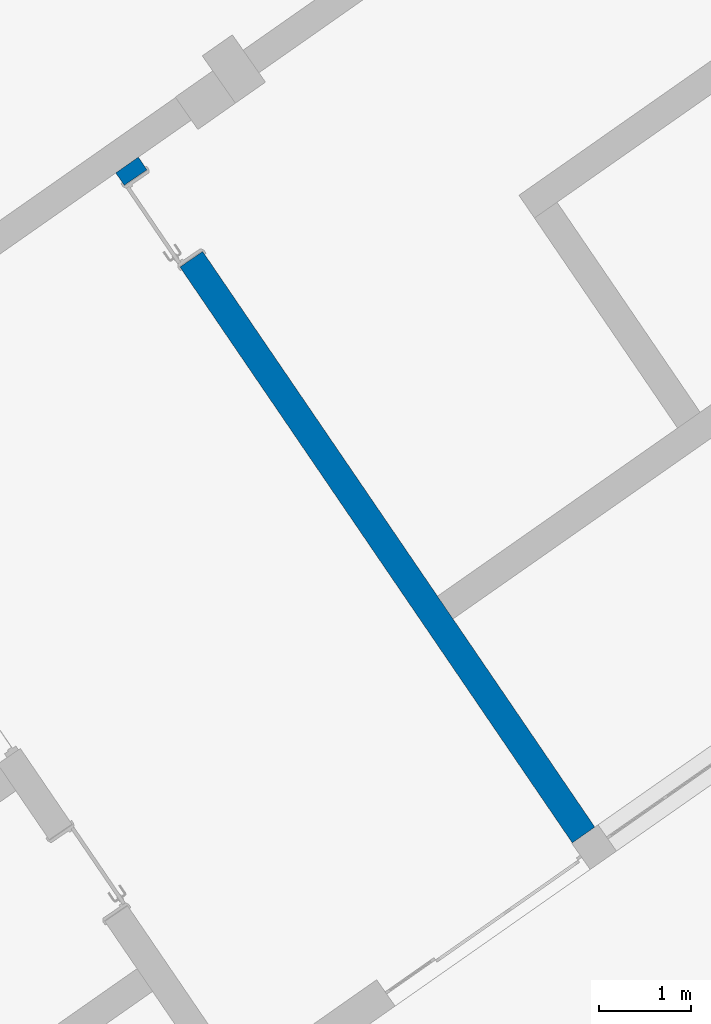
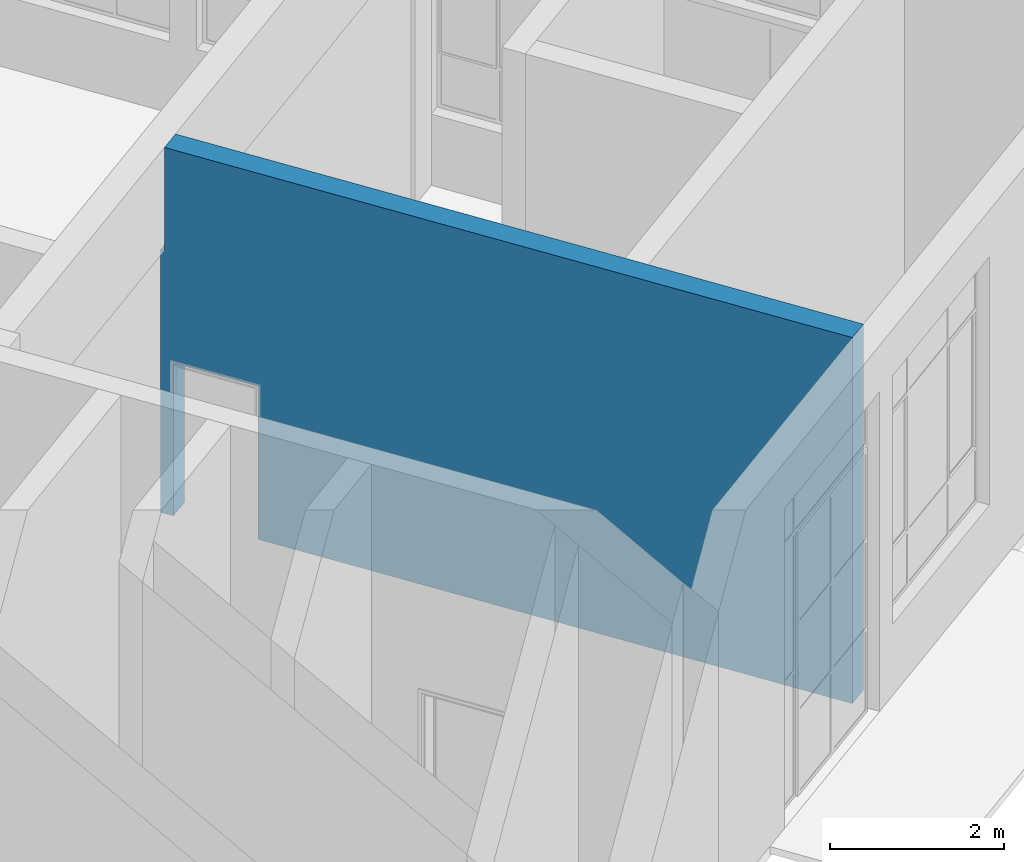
# One storey, part 109 of 157: 1 wall, 1 opening.
"""IFC2X3 building model written with IfcOpenShell, lengths in millimetres."""

from ifc_helpers import new_model, entity, si_unit, converted_unit, derived_unit, direction, frame, frame_2d, origin, place, context, subcontext, project, spatial, rectangle, extrude, faceted_brep, material, layer, layer_set, type_object, element, save


model = new_model("IFC2X3")

# Units and contexts
model_context = context("Model", 3, precision=0.01, world=origin(), true_north=direction((6.123031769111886e-17, 1.0)))
body_context = subcontext(model_context, "Body", "Model", "MODEL_VIEW")
ifc_project = project(units=[si_unit("LENGTHUNIT", "METRE", prefix="MILLI"), si_unit("AREAUNIT", "SQUARE_METRE"), si_unit("VOLUMEUNIT", "CUBIC_METRE"), converted_unit("PLANEANGLEUNIT", "DEGREE", entity("IfcRatioMeasure", 0.017453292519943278), si_unit("PLANEANGLEUNIT", "RADIAN"), dimensions=[0, 0, 0, 0, 0, 0, 0]), si_unit("MASSUNIT", "GRAM", prefix="KILO"), derived_unit("MASSDENSITYUNIT", [(si_unit("MASSUNIT", "GRAM", prefix="KILO"), 1), (si_unit("LENGTHUNIT", "METRE"), -3)]), derived_unit("MOMENTOFINERTIAUNIT", [(si_unit("LENGTHUNIT", "METRE"), 4)]), si_unit("TIMEUNIT", "SECOND"), si_unit("FREQUENCYUNIT", "HERTZ"), si_unit("THERMODYNAMICTEMPERATUREUNIT", "DEGREE_CELSIUS"), derived_unit("THERMALTRANSMITTANCEUNIT", [(si_unit("MASSUNIT", "GRAM", prefix="KILO"), 1), (si_unit("THERMODYNAMICTEMPERATUREUNIT", "KELVIN"), -1), (si_unit("TIMEUNIT", "SECOND"), -3)]), derived_unit("THERMALCONDUCTANCEUNIT", [(si_unit("MASSUNIT", "GRAM", prefix="KILO"), 1), (si_unit("LENGTHUNIT", "METRE"), 1), (si_unit("THERMODYNAMICTEMPERATUREUNIT", "KELVIN"), -1), (si_unit("TIMEUNIT", "SECOND"), -3)]), derived_unit("VOLUMETRICFLOWRATEUNIT", [(si_unit("LENGTHUNIT", "METRE"), 3), (si_unit("TIMEUNIT", "SECOND"), -1)]), derived_unit("MASSFLOWRATEUNIT", [(si_unit("MASSUNIT", "GRAM", prefix="KILO"), 1), (si_unit("TIMEUNIT", "SECOND"), -1)]), derived_unit("ROTATIONALFREQUENCYUNIT", [(si_unit("TIMEUNIT", "SECOND"), -1)]), si_unit("ELECTRICCURRENTUNIT", "AMPERE"), si_unit("ELECTRICVOLTAGEUNIT", "VOLT"), si_unit("POWERUNIT", "WATT"), converted_unit("FORCEUNIT", "KIP", entity("IfcRatioMeasure", 2.088543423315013e-05), si_unit("FORCEUNIT", "NEWTON"), dimensions=[1, 1, -2, 0, 0, 0, 0]), si_unit("ILLUMINANCEUNIT", "LUX"), si_unit("LUMINOUSFLUXUNIT", "LUMEN"), si_unit("LUMINOUSINTENSITYUNIT", "CANDELA"), derived_unit("USERDEFINED", [(si_unit("MASSUNIT", "GRAM", prefix="KILO"), -1), (si_unit("LENGTHUNIT", "METRE"), -2), (si_unit("TIMEUNIT", "SECOND"), 3), (si_unit("LUMINOUSFLUXUNIT", "LUMEN"), 1)]), derived_unit("USERDEFINED", [(si_unit("MASSUNIT", "GRAM", prefix="KILO"), 1), (si_unit("LENGTHUNIT", "METRE"), 3), (si_unit("TIMEUNIT", "SECOND"), -3), (si_unit("ELECTRICCURRENTUNIT", "AMPERE"), -2)]), derived_unit("USERDEFINED", [(si_unit("LENGTHUNIT", "METRE"), 2), (si_unit("TIMEUNIT", "SECOND"), -2)]), derived_unit("SOUNDPOWERUNIT", [(si_unit("MASSUNIT", "GRAM", prefix="KILO"), 1), (si_unit("LENGTHUNIT", "METRE"), 2), (si_unit("TIMEUNIT", "SECOND"), -3)]), derived_unit("SOUNDPRESSUREUNIT", [(si_unit("MASSUNIT", "GRAM", prefix="KILO"), 1), (si_unit("LENGTHUNIT", "METRE"), -1), (si_unit("TIMEUNIT", "SECOND"), -2)]), derived_unit("LINEARVELOCITYUNIT", [(si_unit("LENGTHUNIT", "METRE"), 1), (si_unit("TIMEUNIT", "SECOND"), -1)]), si_unit("PRESSUREUNIT", "PASCAL"), derived_unit("USERDEFINED", [(si_unit("LENGTHUNIT", "METRE"), -2), (si_unit("MASSUNIT", "GRAM", prefix="KILO"), 1), (si_unit("TIMEUNIT", "SECOND"), -2)]), derived_unit("LINEARFORCEUNIT", [(si_unit("MASSUNIT", "GRAM", prefix="KILO"), 1), (si_unit("LENGTHUNIT", "METRE"), 1), (si_unit("TIMEUNIT", "SECOND"), -2), (si_unit("LENGTHUNIT", "METRE"), -1)]), derived_unit("PLANARFORCEUNIT", [(si_unit("MASSUNIT", "GRAM", prefix="KILO"), 1), (si_unit("LENGTHUNIT", "METRE"), 1), (si_unit("TIMEUNIT", "SECOND"), -2), (si_unit("LENGTHUNIT", "METRE"), -2)]), derived_unit("SPECIFICHEATCAPACITYUNIT", [(si_unit("LENGTHUNIT", "METRE"), 2), (si_unit("TIMEUNIT", "SECOND"), -2), (si_unit("THERMODYNAMICTEMPERATUREUNIT", "KELVIN"), -1)]), derived_unit("VAPORPERMEABILITYUNIT", [(si_unit("TIMEUNIT", "SECOND"), 1), (si_unit("LENGTHUNIT", "METRE"), -1)]), derived_unit("DYNAMICVISCOSITYUNIT", [(si_unit("MASSUNIT", "GRAM", prefix="KILO"), 1), (si_unit("LENGTHUNIT", "METRE"), -1), (si_unit("TIMEUNIT", "SECOND"), -1)]), derived_unit("THERMALEXPANSIONCOEFFICIENTUNIT", [(si_unit("THERMODYNAMICTEMPERATUREUNIT", "KELVIN"), -1)])], contexts=[model_context])

# Site, building, storey
site_placement = place(None, frame((0.0, 0.0, 0.0), z_axis=(0.0, 0.0, 1.0), x_axis=(0.8191520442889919, 0.5735764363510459, 0.0)))
site = spatial("IfcSite", under=ifc_project, at=site_placement, Name="Default", CompositionType="ELEMENT")
building_placement = place(site_placement, origin())
building = spatial("IfcBuilding", under=site, at=building_placement, CompositionType="ELEMENT")
storey_placement = place(building_placement, origin())
storey = spatial("IfcBuildingStorey", under=building, at=storey_placement, Name="1.EG +0.00", CompositionType="ELEMENT", Elevation=-4.331468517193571e-12)

# Wall, opening
ifc_material = material(Name="Analytical Wall Surface_CJC")
ifc_layer = layer(ifc_material, 300.0)
ifc_layer_set = layer_set([ifc_layer], Name="Basic Wall:Wand_Innen_30")
wall_type = type_object("IfcWallType", Name="Basic Wall:Wand_Innen_30", PredefinedType="STANDARD", material=ifc_layer_set)
wall_placement = place(storey_placement, frame((-213027.96119569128, 52419.44947620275, 0.0), z_axis=(0.0, 0.0, 1.0), x_axis=(0.012729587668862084, 0.999918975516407, 0.0)))
wall = element("IfcWall", 1, at=wall_placement, inside=storey, type_object=wall_type, Name="Basic Wall:Wand_Innen_30", ObjectType="Basic Wall:Wand_Innen_30", context=body_context, shape_type="Brep", body=[
    faceted_brep([(8804.532258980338, -150.0, 5150.0), (3054.0663304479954, -150.0, 5150.0), (2754.042021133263, -150.0, 5150.0), (3.819185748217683, -150.0, 5150.0), (3.819185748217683, -150.0, 0.0), (2754.042021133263, -150.0, 0.0), (3054.0663304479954, -150.0, 0.0), (7607.18903966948, -150.0, 0.0), (7607.189039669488, -150.0, 2150.0), (8687.189039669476, -150.0, 2150.0), (8687.189039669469, -150.0, 0.0), (8854.53631053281, -150.0, 0.0), (8854.53631053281, -150.0, 3700.0), (8804.532258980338, -150.0, 3700.0), (0.0, 150.0, 5150.0), (8800.71307323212, 150.0, 5150.0), (8800.713073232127, 150.0, 3700.0), (8850.717124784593, 150.0, 3700.0), (8850.717124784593, 150.0, 0.0), (8687.189039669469, 150.0, 0.0), (8687.189039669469, 150.0, 2150.0), (7607.18903966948, 150.0, 2150.0), (7607.189039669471, 150.0, 0.0), (0.0, 150.0, 0.0)], [[[0, 1, 2, 3, 4, 5, 6, 7, 8, 9, 10, 11, 12, 13]], [[14, 15, 16, 17, 18, 19, 20, 21, 22, 23]], [[4, 23, 22, 7, 6, 5]], [[3, 2, 1, 0, 15, 14]], [[4, 3, 14, 23]], [[9, 20, 19, 10]], [[20, 9, 8, 21]], [[21, 8, 7, 22]], [[13, 12, 17, 16]], [[11, 18, 17, 12]], [[15, 0, 13, 16]], [[18, 11, 10, 19]]]),
])
opening_placement = place(wall_placement, frame((7607.18903966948, -150.0, 0.0)))
element("IfcOpeningElement", 2, at=opening_placement, cuts=wall, Name="Doors_IntSgl:100x210:1", ObjectType="Opening", context=body_context, shape_type="SweptSolid", body=[
    extrude(rectangle(XDim=2150.000000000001, YDim=1079.9999999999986, at=frame_2d((1075.0000000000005, 539.9999999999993), x_axis=(1.0, 0.0))), frame((0.0, 0.0, 0.0), z_axis=(0.0, 1.0, 0.0), x_axis=(0.0, 0.0, 1.0)), (0.0, 0.0, 1.0), 300.0),
])

save(model, "model.ifc")
